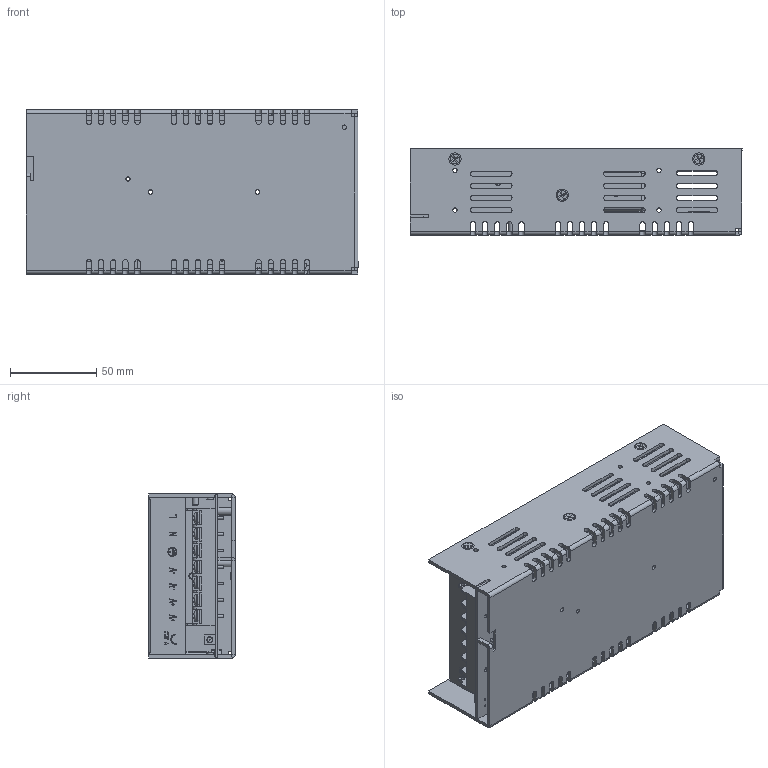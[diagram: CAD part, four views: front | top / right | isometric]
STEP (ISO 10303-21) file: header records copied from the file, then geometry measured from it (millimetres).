
FILE_DESCRIPTION (( 'STEP AP203' ), '1' );
FILE_NAME ('LCL150-CHASSIS.STEP', '2012-10-02T20:24:42', ( 'dcook' ), ( '' ), 'SwSTEP 2.0', 'SolidWorks 2012', '' );
FILE_SCHEMA (( 'CONFIG_CONTROL_DESIGN' ));
Products named in the file (9): LCL150-CHASSIS; Screw_FHP_100D_no6_.250L; LCL150-PCB-ASSY; POT-VER-6X6X4; CONN-BLOCK-7PIN; CONN-BLOCK-7PIM; 10007899C0; 10008011XX; 10008012G0
Assembly tree (14 placements, depth 4):
  LCL150-CHASSIS
    10008012G0
    10008011XX
    LCL150-PCB-ASSY
      10007899C0
      CONN-BLOCK-7PIN
        CONN-BLOCK-7PIM
      POT-VER-6X6X4
    Screw_FHP_100D_no6_.250L  x7
Bounding box: 192 x 50 x 95 mm (x, y, z)
Volume: 128731.2 mm3; surface area: 158570.2 mm2
Topology: 34 solids, 41 shells, 2141 faces, 5731 edges, 3676 vertices
Faces by surface type: plane 1204, cylinder 774, cone 113, torus 50
Full cylindrical faces by diameter (mm): 0.5 x3, 0.85 x6, 1 x36, 1.015 x9, 1.15 x1, 1.25 x43, 1.27 x3, 1.5 x56, 1.75 x1, 2 x23, 2.359 x1, 2.5 x23, 2.663 x1, 3.077 x7, 3.462 x1, 3.505 x7, 3.817 x1, 4.5 x2, 4.559 x1, 4.583 x2, 4.686 x2, 4.702 x1, 4.786 x1, 5.232 x1, 5.49 x1, 6.394 x7
Entity records: 63364 total; most frequent: CARTESIAN_POINT 11236, DIRECTION 10539, ORIENTED_EDGE 10164, EDGE_CURVE 5082, AXIS2_PLACEMENT_3D 3667, VERTEX_POINT 3468, LINE 3205, VECTOR 3205
